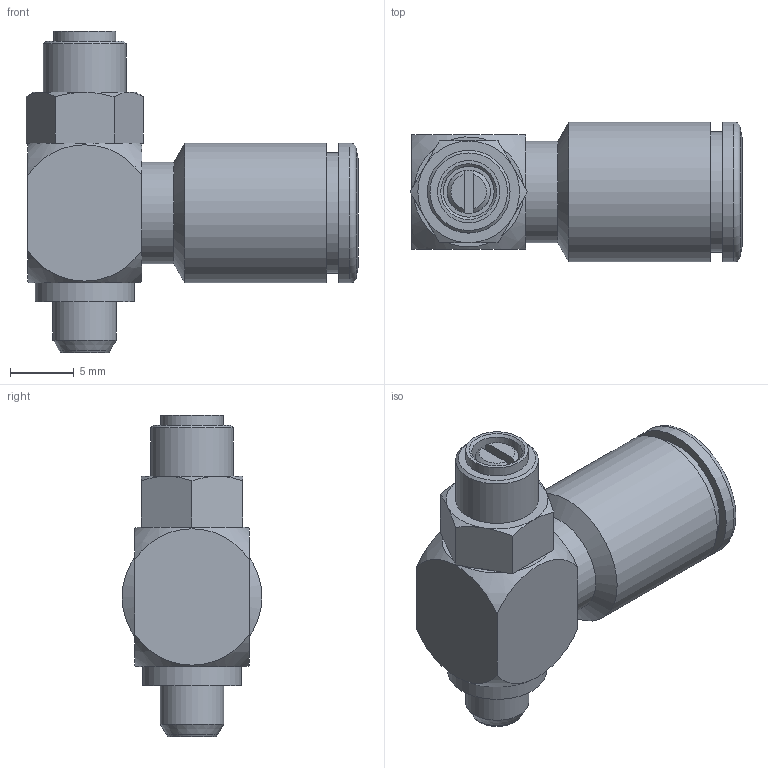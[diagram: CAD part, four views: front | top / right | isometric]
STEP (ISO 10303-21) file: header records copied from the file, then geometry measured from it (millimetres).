
FILE_DESCRIPTION(('Bauteilbeschreibung','HiCAD-Model','HiCAD-STEP-TRANSLATION','Bauteilbeschreibung'),'2;1');
FILE_NAME('B:/ABGLEICH/ZEICHNUNGEN/STEP FÜR INTERNET/STEP/IPSO 029/304814_IPSO_029_6_M5.STP','2012-05-02T11:37:23+00:00',('Konstrukteur'),('Konstrukteur Firma GmbH'),' HiCAD neXt 2008, Step 3.1.1401.2J ','HiCAD neXt 2008','confidential');
FILE_SCHEMA(('AUTOMOTIVE_DESIGN { 1 2 10303 214 0 1 1 1 }'));
Length unit declared in the file: millimetre
Products named in the file (12): A04814_IPSO_029_6_M5; A04000_LRV_M5_SPINDEL; A040000LRV0M50SPINDEL; A040000LRV0M50SPINDEL0; DIN 13_M3; A00041; A04000_LRV_M5_K_RPER; A040000LRV0M50K0RPER; DIN0130M3; DIN 13_M5; R201213_1_N; DR6_1_NEU
Assembly tree (11 placements, depth 4):
  A04814_IPSO_029_6_M5
    A04000_LRV_M5_SPINDEL
      A040000LRV0M50SPINDEL
      A040000LRV0M50SPINDEL0
        DIN 13_M3
    A00041
    A04000_LRV_M5_K_RPER
    A040000LRV0M50K0RPER
      DIN0130M3
      DIN 13_M5
    R201213_1_N
    DR6_1_NEU
Bounding box: 26.12 x 11 x 25.3 mm (x, y, z)
Volume: 1964.7 mm3; surface area: 3543.7 mm2
Topology: 8 solids, 8 shells, 134 faces, 305 edges, 197 vertices
Faces by surface type: plane 51, cylinder 45, cone 34, torus 2, sphere 2
Full cylindrical faces by diameter (mm): 1.2 x4, 1.4 x1, 1.8 x1, 2 x1, 2.3 x1, 2.387 x4, 2.4 x1, 3 x3, 3.4 x1, 4 x1, 4.019 x2, 4.9 x1, 5 x2, 5.2 x1, 6 x1, 6.1 x1, 6.2 x1, 6.5 x1, 6.85 x1, 7.4 x1, 7.5 x1, 7.8 x1, 8 x1, 8.3 x1, 9 x1, 9.5 x1, 9.6 x1, 11 x2
Entity records: 11419 total; most frequent: CARTESIAN_POINT 7588, DIRECTION 608, ORIENTED_EDGE 402, AXIS2_PLACEMENT_3D 284, EDGE_LOOP 238, EDGE_CURVE 201, COLOUR_RGB 192, PRESENTATION_STYLE_ASSIGNMENT 192
